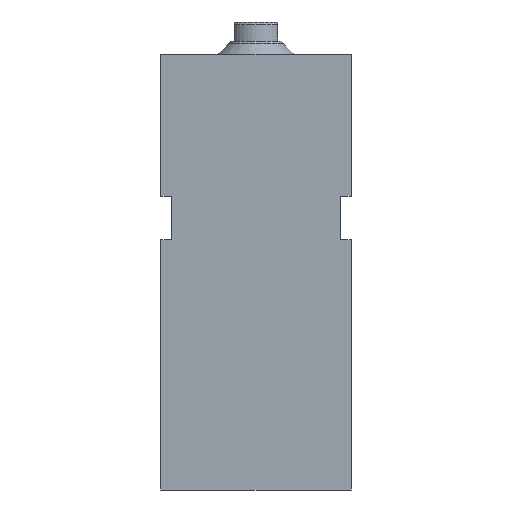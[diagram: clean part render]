
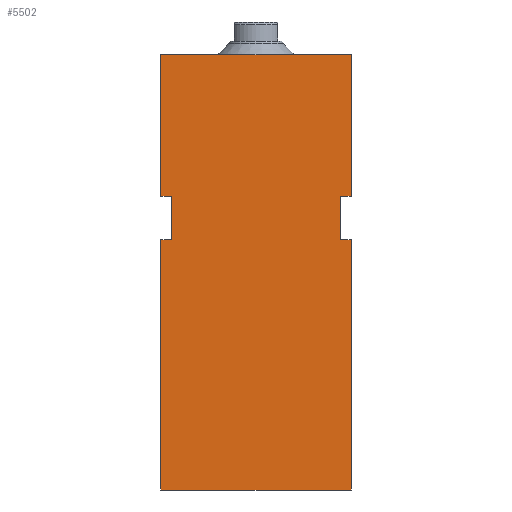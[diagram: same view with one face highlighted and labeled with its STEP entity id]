
A CAD part, front view. The second image highlights one B-rep face of the part: STEP entity #5502.
In plain terms, the highlighted planar face has unit normal (0, -1, 0).
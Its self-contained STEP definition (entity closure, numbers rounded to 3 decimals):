
#70 = VERTEX_POINT ( 'NONE', #6571 ) ;
#99 = DIRECTION ( 'NONE',  ( 0., 0., -1. ) ) ;
#100 = CARTESIAN_POINT ( 'NONE',  ( -17.5, -30., -86. ) ) ;
#210 = DIRECTION ( 'NONE',  ( 0., 0., -1. ) ) ;
#337 = PLANE ( 'NONE',  #2007 ) ;
#399 = VECTOR ( 'NONE', #1948, 1000. ) ;
#514 = CARTESIAN_POINT ( 'NONE',  ( 17.5, -30., -32. ) ) ;
#532 = EDGE_LOOP ( 'NONE', ( #4890, #5410, #860, #788, #4748, #2903, #1911, #825, #3747, #4302, #1114, #2467 ) ) ;
#544 = LINE ( 'NONE', #2188, #2886 ) ;
#768 = CARTESIAN_POINT ( 'NONE',  ( -17.5, -30., -86. ) ) ;
#788 = ORIENTED_EDGE ( 'NONE', *, *, #906, .F. ) ;
#801 = VECTOR ( 'NONE', #4543, 1000. ) ;
#825 = ORIENTED_EDGE ( 'NONE', *, *, #6087, .F. ) ;
#860 = ORIENTED_EDGE ( 'NONE', *, *, #6094, .T. ) ;
#906 = EDGE_CURVE ( 'NONE', #3513, #3644, #1706, .T. ) ;
#1006 = LINE ( 'NONE', #1384, #801 ) ;
#1019 = EDGE_CURVE ( 'NONE', #5854, #3801, #3832, .T. ) ;
#1044 = VECTOR ( 'NONE', #5145, 1000. ) ;
#1114 = ORIENTED_EDGE ( 'NONE', *, *, #1586, .F. ) ;
#1181 = CARTESIAN_POINT ( 'NONE',  ( -15.5, -30., -32. ) ) ;
#1259 = CARTESIAN_POINT ( 'NONE',  ( 15.5, -30., -32. ) ) ;
#1263 = CARTESIAN_POINT ( 'NONE',  ( 17.5, -30., -86. ) ) ;
#1303 = CARTESIAN_POINT ( 'NONE',  ( 15.5, -30., -32. ) ) ;
#1384 = CARTESIAN_POINT ( 'NONE',  ( -15.5, -30., -40. ) ) ;
#1449 = CARTESIAN_POINT ( 'NONE',  ( -17.5, -30., -86. ) ) ;
#1497 = VECTOR ( 'NONE', #6465, 1000. ) ;
#1549 = EDGE_CURVE ( 'NONE', #3656, #6437, #4969, .T. ) ;
#1586 = EDGE_CURVE ( 'NONE', #6373, #6437, #4001, .T. ) ;
#1690 = DIRECTION ( 'NONE',  ( 1., 0., 0. ) ) ;
#1697 = LINE ( 'NONE', #1181, #5269 ) ;
#1706 = LINE ( 'NONE', #100, #5238 ) ;
#1834 = VERTEX_POINT ( 'NONE', #1840 ) ;
#1840 = CARTESIAN_POINT ( 'NONE',  ( -15.5, -30., -32. ) ) ;
#1911 = ORIENTED_EDGE ( 'NONE', *, *, #6197, .F. ) ;
#1948 = DIRECTION ( 'NONE',  ( 0., 0., 1. ) ) ;
#2007 = AXIS2_PLACEMENT_3D ( 'NONE', #768, #6422, #210 ) ;
#2122 = VECTOR ( 'NONE', #99, 1000. ) ;
#2138 = LINE ( 'NONE', #2530, #2122 ) ;
#2188 = CARTESIAN_POINT ( 'NONE',  ( -17.5, -30., -86. ) ) ;
#2382 = CARTESIAN_POINT ( 'NONE',  ( 17.5, -30., -86. ) ) ;
#2432 = EDGE_CURVE ( 'NONE', #3513, #5854, #544, .T. ) ;
#2467 = ORIENTED_EDGE ( 'NONE', *, *, #5671, .F. ) ;
#2487 = CARTESIAN_POINT ( 'NONE',  ( 15.5, -30., -40. ) ) ;
#2530 = CARTESIAN_POINT ( 'NONE',  ( 15.5, -30., -32. ) ) ;
#2603 = CARTESIAN_POINT ( 'NONE',  ( 15.5, -30., -40. ) ) ;
#2622 = LINE ( 'NONE', #6168, #1044 ) ;
#2722 = LINE ( 'NONE', #1303, #5232 ) ;
#2886 = VECTOR ( 'NONE', #1690, 1000. ) ;
#2903 = ORIENTED_EDGE ( 'NONE', *, *, #1019, .T. ) ;
#2916 = VERTEX_POINT ( 'NONE', #2603 ) ;
#2963 = VECTOR ( 'NONE', #5039, 1000. ) ;
#3037 = EDGE_CURVE ( 'NONE', #3454, #3656, #2722, .T. ) ;
#3222 = CARTESIAN_POINT ( 'NONE',  ( 17.5, -30., -86. ) ) ;
#3287 = DIRECTION ( 'NONE',  ( 0., 0., 1. ) ) ;
#3454 = VERTEX_POINT ( 'NONE', #1259 ) ;
#3513 = VERTEX_POINT ( 'NONE', #6092 ) ;
#3559 = LINE ( 'NONE', #2487, #2963 ) ;
#3644 = VERTEX_POINT ( 'NONE', #4579 ) ;
#3656 = VERTEX_POINT ( 'NONE', #514 ) ;
#3747 = ORIENTED_EDGE ( 'NONE', *, *, #3037, .T. ) ;
#3801 = VERTEX_POINT ( 'NONE', #4234 ) ;
#3826 = DIRECTION ( 'NONE',  ( -1., 0., 0. ) ) ;
#3832 = LINE ( 'NONE', #3222, #6557 ) ;
#3858 = EDGE_CURVE ( 'NONE', #70, #1834, #1006, .T. ) ;
#3887 = FACE_OUTER_BOUND ( 'NONE', #532, .T. ) ;
#3929 = VERTEX_POINT ( 'NONE', #6282 ) ;
#3969 = CARTESIAN_POINT ( 'NONE',  ( -17.5, -30., -6. ) ) ;
#3978 = CARTESIAN_POINT ( 'NONE',  ( 17.5, -30., -6. ) ) ;
#4001 = LINE ( 'NONE', #5535, #4269 ) ;
#4234 = CARTESIAN_POINT ( 'NONE',  ( 17.5, -30., -40. ) ) ;
#4269 = VECTOR ( 'NONE', #4515, 1000. ) ;
#4302 = ORIENTED_EDGE ( 'NONE', *, *, #1549, .T. ) ;
#4515 = DIRECTION ( 'NONE',  ( 1., 0., 0. ) ) ;
#4543 = DIRECTION ( 'NONE',  ( 0., 0., 1. ) ) ;
#4579 = CARTESIAN_POINT ( 'NONE',  ( -17.5, -30., -40. ) ) ;
#4748 = ORIENTED_EDGE ( 'NONE', *, *, #2432, .T. ) ;
#4890 = ORIENTED_EDGE ( 'NONE', *, *, #6619, .F. ) ;
#4969 = LINE ( 'NONE', #2382, #1497 ) ;
#5039 = DIRECTION ( 'NONE',  ( 1., 0., 0. ) ) ;
#5145 = DIRECTION ( 'NONE',  ( -1., 0., 0. ) ) ;
#5232 = VECTOR ( 'NONE', #6281, 1000. ) ;
#5238 = VECTOR ( 'NONE', #5687, 1000. ) ;
#5269 = VECTOR ( 'NONE', #3826, 1000. ) ;
#5410 = ORIENTED_EDGE ( 'NONE', *, *, #3858, .F. ) ;
#5502 = ADVANCED_FACE ( 'NONE', ( #3887 ), #337, .T. ) ;
#5535 = CARTESIAN_POINT ( 'NONE',  ( -17.5, -30., -6. ) ) ;
#5671 = EDGE_CURVE ( 'NONE', #3929, #6373, #6112, .T. ) ;
#5687 = DIRECTION ( 'NONE',  ( 0., 0., 1. ) ) ;
#5854 = VERTEX_POINT ( 'NONE', #1263 ) ;
#6087 = EDGE_CURVE ( 'NONE', #3454, #2916, #2138, .T. ) ;
#6092 = CARTESIAN_POINT ( 'NONE',  ( -17.5, -30., -86. ) ) ;
#6094 = EDGE_CURVE ( 'NONE', #70, #3644, #2622, .T. ) ;
#6112 = LINE ( 'NONE', #1449, #399 ) ;
#6168 = CARTESIAN_POINT ( 'NONE',  ( -15.5, -30., -40. ) ) ;
#6197 = EDGE_CURVE ( 'NONE', #2916, #3801, #3559, .T. ) ;
#6281 = DIRECTION ( 'NONE',  ( 1., 0., 0. ) ) ;
#6282 = CARTESIAN_POINT ( 'NONE',  ( -17.5, -30., -32. ) ) ;
#6373 = VERTEX_POINT ( 'NONE', #3969 ) ;
#6422 = DIRECTION ( 'NONE',  ( 0., -1., 0. ) ) ;
#6437 = VERTEX_POINT ( 'NONE', #3978 ) ;
#6465 = DIRECTION ( 'NONE',  ( 0., 0., 1. ) ) ;
#6557 = VECTOR ( 'NONE', #3287, 1000. ) ;
#6571 = CARTESIAN_POINT ( 'NONE',  ( -15.5, -30., -40. ) ) ;
#6619 = EDGE_CURVE ( 'NONE', #1834, #3929, #1697, .T. ) ;
